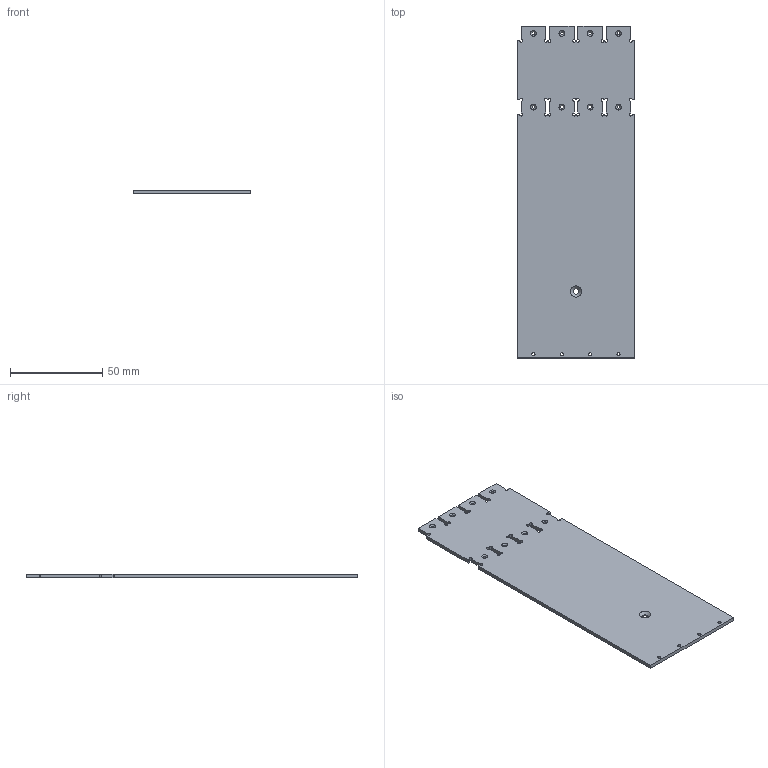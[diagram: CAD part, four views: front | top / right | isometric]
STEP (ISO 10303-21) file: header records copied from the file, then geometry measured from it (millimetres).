
FILE_DESCRIPTION(('FreeCAD Model'),'2;1');
FILE_NAME('Open CASCADE Shape Model','2025-04-07T10:11:21',(''),(''), 'Open CASCADE STEP processor 7.6','FreeCAD','Unknown');
FILE_SCHEMA(('CONFIG_CONTROL_DESIGN','SHAPE_APPEARANCE_LAYER_MIM'));
Length unit declared in the file: millimetre
Products named in the file (1): BottomCCDAssemblyFrame
Bounding box: 63.48 x 180 x 2 mm (x, y, z)
Volume: 22355 mm3; surface area: 23823.7 mm2
Topology: 1 solids, 1 shells, 104 faces, 293 edges, 191 vertices
Faces by surface type: cylinder 49, plane 42, cone 13
Full cylindrical faces by diameter (mm): 1.7 x12, 3.2 x1
Entity records: 3970 total; most frequent: DIRECTION 614, CARTESIAN_POINT 589, ORIENTED_EDGE 586, EDGE_CURVE 293, AXIS2_PLACEMENT_3D 216, VERTEX_POINT 191, LINE 182, VECTOR 182
